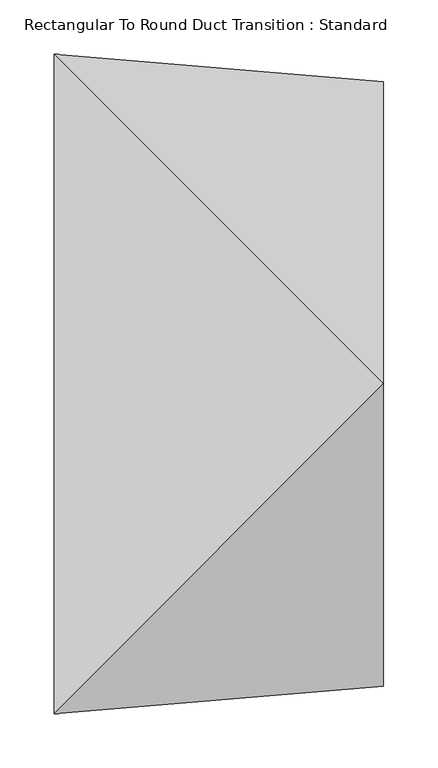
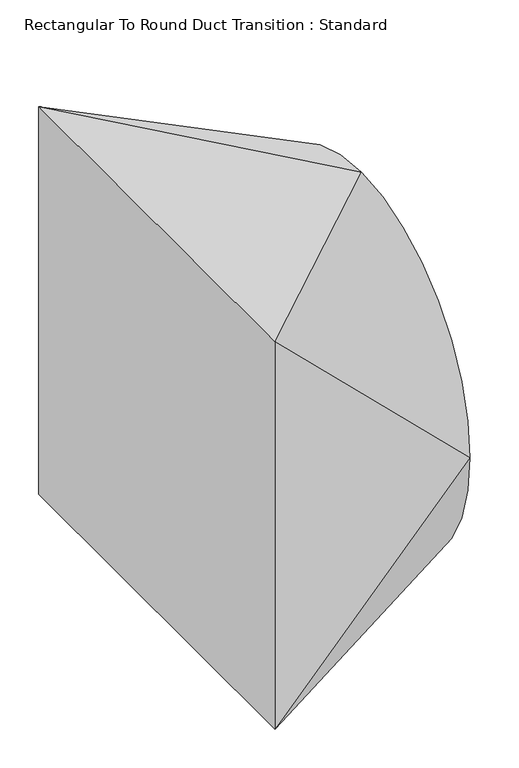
"""IFC4 building model written with IfcOpenShell, lengths in millimetres: duct fitting geometry, Rectangular To Round Duct Transition : Standard."""

from ifc_helpers import new_model, si_unit, frame, origin, place, context, project, spatial, circle_curve, source, transform, mapped, element, save
from ifc_brep_helpers import plane_surface, spline_surface, advanced_brep


def rectangular_to_round_duct_transition_standard_41359ecd(model_context):
    return source(origin(), model_context, "Body", "AdvancedBrep", [
        advanced_brep(
        [(0.0, -304.8, -304.8), (0.0, -304.8, 304.8), (0.0, 304.8, 304.8), (0.0, 304.8, -304.8), (304.8, -279.4, 0.0), (304.8, 0.0, -279.4), (304.8, 279.4, 0.0), (304.8, 0.0, 279.4)],
        [
            (0, 1),
            (1, 2),
            (2, 3),
            (3, 0),
            (4, 5, circle_curve(frame((304.8, 0.0, 0.0), z_axis=(1.0, 0.0, 0.0), x_axis=(0.0, -1.0, 0.0)), 279.4)),
            (5, 6, circle_curve(frame((304.8, 0.0, 0.0), z_axis=(1.0, 0.0, 0.0), x_axis=(0.0, -1.0, 0.0)), 279.4)),
            (6, 7, circle_curve(frame((304.8, 0.0, 0.0), z_axis=(1.0, 0.0, 0.0), x_axis=(0.0, -1.0, 0.0)), 279.4)),
            (7, 4, circle_curve(frame((304.8, 0.0, 0.0), z_axis=(1.0, 0.0, 0.0), x_axis=(0.0, -1.0, 0.0)), 279.4)),
            (0, 4),
            (4, 1),
            (7, 1),
            (7, 2),
            (6, 2),
            (6, 3),
            (5, 3),
            (5, 0),
        ],
        [
            plane_surface(frame((0.0, 0.0, 0.0), z_axis=(-1.0, 0.0, 0.0), x_axis=(0.0, 1.0, 0.0))),
            plane_surface(frame((304.8, 0.0, 0.0), z_axis=(1.0, 0.0, 0.0), x_axis=(0.0, 1.0, 0.0))),
            plane_surface(frame((304.8, -279.4, 0.0), z_axis=(0.08304547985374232, -0.9965457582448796, 0.0), x_axis=(0.0, 0.0, 1.0))),
            spline_surface(2, 1, [[(304.8, -279.4, 0.0), (0.0, -304.8, 304.8)], [(304.8, -279.4, 279.4), (0.0, -304.8, 304.8)], [(304.8, 0.0, 279.4), (0.0, -304.8, 304.8)]], [3, 3], [2, 2], [0.0, 1.0], [0.0, 1.0], weights=[[1.0, 1.0], [0.7071067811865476, 0.7071067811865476], [1.0, 1.0]]),
            plane_surface(frame((304.8, 0.0, 279.4), z_axis=(0.08304547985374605, 0.0, 0.9965457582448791), x_axis=(0.0, 1.0, 0.0))),
            spline_surface(2, 1, [[(304.8, 0.0, 279.4), (0.0, 304.8, 304.8)], [(304.8, 279.4, 279.4), (0.0, 304.8, 304.8)], [(304.8, 279.4, 0.0), (0.0, 304.8, 304.8)]], [3, 3], [2, 2], [0.0, 1.0], [0.0, 1.0], weights=[[1.0, 1.0], [0.7071067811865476, 0.7071067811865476], [1.0, 1.0]]),
            plane_surface(frame((304.8, 279.4, 0.0), z_axis=(0.08304547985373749, 0.9965457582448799, 0.0), x_axis=(0.0, 0.0, -1.0))),
            spline_surface(2, 1, [[(304.8, 279.4, 0.0), (0.0, 304.8, -304.8)], [(304.8, 279.4, -279.4), (0.0, 304.8, -304.8)], [(304.8, 0.0, -279.4), (0.0, 304.8, -304.8)]], [3, 3], [2, 2], [0.0, 1.0], [0.0, 1.0], weights=[[1.0, 1.0], [0.7071067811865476, 0.7071067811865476], [1.0, 1.0]]),
            plane_surface(frame((304.8, 0.0, -279.4), z_axis=(0.08304547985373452, 0.0, -0.9965457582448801), x_axis=(0.0, -1.0, 0.0))),
            spline_surface(2, 1, [[(304.8, 0.0, -279.4), (0.0, -304.8, -304.8)], [(304.8, -279.4, -279.4), (0.0, -304.8, -304.8)], [(304.8, -279.4, 0.0), (0.0, -304.8, -304.8)]], [3, 3], [2, 2], [0.0, 1.0], [0.0, 1.0], weights=[[1.0, 1.0], [0.7071067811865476, 0.7071067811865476], [1.0, 1.0]]),
        ],
        [
            (0, [[1, 2, 3, 4]]),
            (1, [[5, 6, 7, 8]]),
            (2, [[-1, 9, 10]]),
            (3, [[-8, 11, -10]]),
            (4, [[-2, -11, 12]]),
            (5, [[-7, 13, -12]]),
            (6, [[-3, -13, 14]]),
            (7, [[-6, 15, -14]]),
            (8, [[-4, -15, 16]]),
            (9, [[-5, -9, -16]]),
        ],
    ),
        advanced_brep(
        [(0.0, -304.8, -304.8), (0.0, -304.8, 304.8), (0.0, 304.8, 304.8), (0.0, 304.8, -304.8), (304.8, -279.4, 0.0), (304.8, 0.0, -279.4), (304.8, 279.4, 0.0), (304.8, 0.0, 279.4)],
        [
            (0, 1),
            (1, 2),
            (2, 3),
            (3, 0),
            (4, 5, circle_curve(frame((304.8, 0.0, 0.0), z_axis=(1.0, 0.0, 0.0), x_axis=(0.0, -1.0, 0.0)), 279.4)),
            (5, 6, circle_curve(frame((304.8, 0.0, 0.0), z_axis=(1.0, 0.0, 0.0), x_axis=(0.0, -1.0, 0.0)), 279.4)),
            (6, 7, circle_curve(frame((304.8, 0.0, 0.0), z_axis=(1.0, 0.0, 0.0), x_axis=(0.0, -1.0, 0.0)), 279.4)),
            (7, 4, circle_curve(frame((304.8, 0.0, 0.0), z_axis=(1.0, 0.0, 0.0), x_axis=(0.0, -1.0, 0.0)), 279.4)),
            (0, 4),
            (4, 1),
            (7, 1),
            (7, 2),
            (6, 2),
            (6, 3),
            (5, 3),
            (5, 0),
        ],
        [
            plane_surface(frame((0.0, 0.0, 0.0), z_axis=(-1.0, 0.0, 0.0), x_axis=(0.0, 1.0, 0.0))),
            plane_surface(frame((304.8, 0.0, 0.0), z_axis=(1.0, 0.0, 0.0), x_axis=(0.0, 1.0, 0.0))),
            plane_surface(frame((304.8, -279.4, 0.0), z_axis=(0.08304547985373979, -0.9965457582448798, 0.0), x_axis=(0.0, 0.0, 1.0))),
            spline_surface(2, 1, [[(304.8, -279.4, 0.0), (0.0, -304.8, 304.8)], [(304.8, -279.4, 279.4), (0.0, -304.8, 304.8)], [(304.8, 0.0, 279.4), (0.0, -304.8, 304.8)]], [3, 3], [2, 2], [0.0, 1.0], [0.0, 1.0], weights=[[1.0, 1.0], [0.7071067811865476, 0.7071067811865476], [1.0, 1.0]]),
            plane_surface(frame((304.8, 0.0, 279.4), z_axis=(0.08304547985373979, 0.0, 0.9965457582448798), x_axis=(0.0, 1.0, 0.0))),
            spline_surface(2, 1, [[(304.8, 0.0, 279.4), (0.0, 304.8, 304.8)], [(304.8, 279.4, 279.4), (0.0, 304.8, 304.8)], [(304.8, 279.4, 0.0), (0.0, 304.8, 304.8)]], [3, 3], [2, 2], [0.0, 1.0], [0.0, 1.0], weights=[[1.0, 1.0], [0.7071067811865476, 0.7071067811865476], [1.0, 1.0]]),
            plane_surface(frame((304.8, 279.4, 0.0), z_axis=(0.08304547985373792, 0.9965457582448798, 0.0), x_axis=(0.0, 0.0, -1.0))),
            spline_surface(2, 1, [[(304.8, 279.4, 0.0), (0.0, 304.8, -304.8)], [(304.8, 279.4, -279.4), (0.0, 304.8, -304.8)], [(304.8, 0.0, -279.4), (0.0, 304.8, -304.8)]], [3, 3], [2, 2], [0.0, 1.0], [0.0, 1.0], weights=[[1.0, 1.0], [0.7071067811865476, 0.7071067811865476], [1.0, 1.0]]),
            plane_surface(frame((304.8, 0.0, -279.4), z_axis=(0.08304547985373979, 0.0, -0.9965457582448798), x_axis=(0.0, -1.0, 0.0))),
            spline_surface(2, 1, [[(304.8, 0.0, -279.4), (0.0, -304.8, -304.8)], [(304.8, -279.4, -279.4), (0.0, -304.8, -304.8)], [(304.8, -279.4, 0.0), (0.0, -304.8, -304.8)]], [3, 3], [2, 2], [0.0, 1.0], [0.0, 1.0], weights=[[1.0, 1.0], [0.7071067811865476, 0.7071067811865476], [1.0, 1.0]]),
        ],
        [
            (0, [[1, 2, 3, 4]]),
            (1, [[5, 6, 7, 8]]),
            (2, [[-1, 9, 10]]),
            (3, [[-8, 11, -10]]),
            (4, [[-2, -11, 12]]),
            (5, [[-7, 13, -12]]),
            (6, [[-3, -13, 14]]),
            (7, [[-6, 15, -14]]),
            (8, [[-4, -15, 16]]),
            (9, [[-5, -9, -16]]),
        ],
    ),
        advanced_brep(
        [(304.8, 0.0, 279.4), (304.8, -279.4, 0.0), (304.8, 0.0, -279.4), (304.8, 279.4, 0.0), (0.0, -304.8, 304.8), (0.0, 304.8, 304.8), (0.0, 304.8, -304.8), (0.0, -304.8, -304.8)],
        [
            (0, 1, circle_curve(frame((304.8, 0.0, 0.0), z_axis=(1.0, 0.0, 0.0), x_axis=(0.0, 1.0, 0.0)), 279.4)),
            (1, 2, circle_curve(frame((304.8, 0.0, 0.0), z_axis=(1.0, 0.0, 0.0), x_axis=(0.0, 1.0, 0.0)), 279.4)),
            (2, 3, circle_curve(frame((304.8, 0.0, 0.0), z_axis=(1.0, 0.0, 0.0), x_axis=(0.0, 1.0, 0.0)), 279.4)),
            (3, 0, circle_curve(frame((304.8, 0.0, 0.0), z_axis=(1.0, 0.0, 0.0), x_axis=(0.0, 1.0, 0.0)), 279.4)),
            (4, 5),
            (5, 6),
            (6, 7),
            (7, 4),
            (0, 4),
            (4, 1),
            (7, 1),
            (7, 2),
            (6, 2),
            (6, 3),
            (5, 3),
            (5, 0),
        ],
        [
            plane_surface(frame((304.8, 0.0, 0.0), z_axis=(1.0, 0.0, 0.0), x_axis=(0.0, 0.0, -1.0))),
            plane_surface(frame((0.0, 0.0, 0.0), z_axis=(-1.0, 0.0, 0.0), x_axis=(0.0, 0.0, -1.0))),
            spline_surface(2, 1, [[(0.0, -304.8, 304.8), (304.8, 0.0, 279.4)], [(0.0, -304.8, 304.8), (304.8, -279.4, 279.4)], [(0.0, -304.8, 304.8), (304.8, -279.4, 0.0)]], [3, 3], [2, 2], [0.0, 1.0], [0.0, 1.0], weights=[[1.0, 1.0], [0.7071067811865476, 0.7071067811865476], [1.0, 1.0]]),
            plane_surface(frame((0.0, -304.8, 0.0), z_axis=(0.0830454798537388, -0.9965457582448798, 0.0), x_axis=(0.0, 0.0, -1.0))),
            spline_surface(2, 1, [[(0.0, -304.8, -304.8), (304.8, -279.4, 0.0)], [(0.0, -304.8, -304.8), (304.8, -279.4, -279.4)], [(0.0, -304.8, -304.8), (304.8, 0.0, -279.4)]], [3, 3], [2, 2], [0.0, 1.0], [0.0, 1.0], weights=[[1.0, 1.0], [0.7071067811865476, 0.7071067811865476], [1.0, 1.0]]),
            plane_surface(frame((0.0, 0.0, -304.8), z_axis=(0.08304547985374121, 0.0, -0.9965457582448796), x_axis=(0.0, 1.0, 0.0))),
            spline_surface(2, 1, [[(0.0, 304.8, -304.8), (304.8, 0.0, -279.4)], [(0.0, 304.8, -304.8), (304.8, 279.4, -279.4)], [(0.0, 304.8, -304.8), (304.8, 279.4, 0.0)]], [3, 3], [2, 2], [0.0, 1.0], [0.0, 1.0], weights=[[1.0, 1.0], [0.7071067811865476, 0.7071067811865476], [1.0, 1.0]]),
            plane_surface(frame((0.0, 304.8, 0.0), z_axis=(0.08304547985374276, 0.9965457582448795, 0.0), x_axis=(0.0, 0.0, 1.0))),
            spline_surface(2, 1, [[(0.0, 304.8, 304.8), (304.8, 279.4, 0.0)], [(0.0, 304.8, 304.8), (304.8, 279.4, 279.4)], [(0.0, 304.8, 304.8), (304.8, 0.0, 279.4)]], [3, 3], [2, 2], [0.0, 1.0], [0.0, 1.0], weights=[[1.0, 1.0], [0.7071067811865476, 0.7071067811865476], [1.0, 1.0]]),
            plane_surface(frame((0.0, 0.0, 304.8), z_axis=(0.08304547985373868, 0.0, 0.9965457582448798), x_axis=(0.0, -1.0, 0.0))),
        ],
        [
            (0, [[1, 2, 3, 4]]),
            (1, [[5, 6, 7, 8]]),
            (2, [[-1, 9, 10]]),
            (3, [[-8, 11, -10]]),
            (4, [[-2, -11, 12]]),
            (5, [[-7, 13, -12]]),
            (6, [[-3, -13, 14]]),
            (7, [[-6, 15, -14]]),
            (8, [[-4, -15, 16]]),
            (9, [[-5, -9, -16]]),
        ],
    ),
    ])


if __name__ == "__main__":
    model = new_model("IFC4")
    model_context = context("Model", 3, world=origin())
    ifc_project = project(units=[si_unit("LENGTHUNIT", "METRE", prefix="MILLI")], contexts=[model_context])
    site = spatial("IfcSite", under=ifc_project)
    building = spatial("IfcBuilding", under=site)
    placement = place(None, origin())
    rectangular_to_round_duct_transition_standard_shape = rectangular_to_round_duct_transition_standard_41359ecd(model_context)
    element("IfcDuctFitting", 1, ObjectType="Rectangular To Round Duct Transition : Standard", at=placement, inside=building, context=model_context, shape_type="MappedRepresentation", body=[
        mapped(rectangular_to_round_duct_transition_standard_shape, transform((0.0, 0.0, 0.0), x_axis=(1.0, 0.0, 0.0), y_axis=(0.0, 1.0, 0.0), z_axis=(0.0, 0.0, 1.0))),
    ])
    save(model, "model.ifc")
